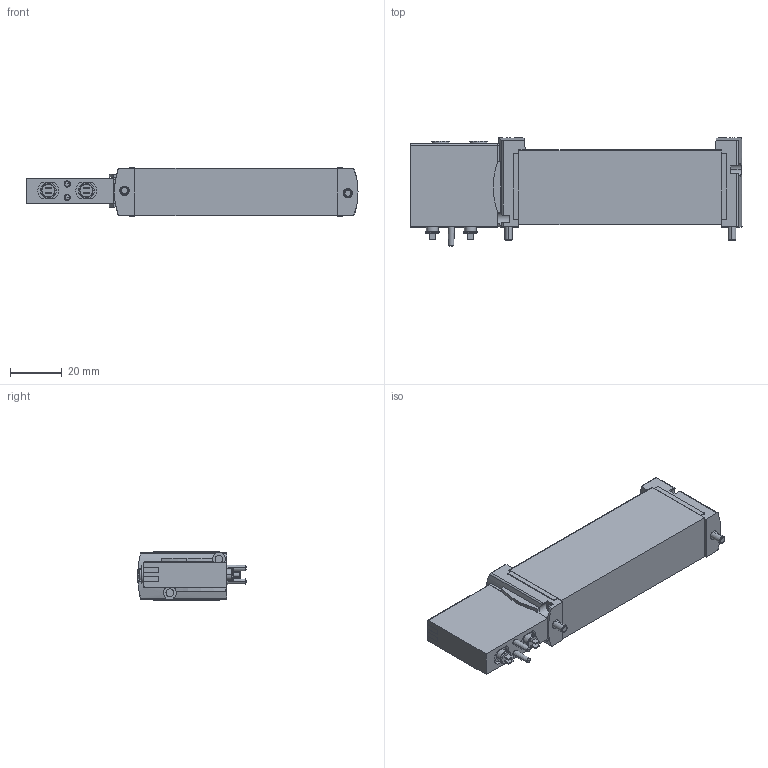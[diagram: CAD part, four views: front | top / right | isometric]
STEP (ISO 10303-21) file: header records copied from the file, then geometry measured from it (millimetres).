
FILE_DESCRIPTION (( 'STEP AP203' ), '1' );
FILE_NAME ('8180810140 FAS-B18-P53E-Z.STEP', '2024-09-09T02:24:07', ( 'L' ), ( '' ), 'SwSTEP 2.0', 'SolidWorks 2019', '' );
FILE_SCHEMA (( 'CONFIG_CONTROL_DESIGN' ));
Length unit declared in the file: millimetre
Products named in the file (1): 8180810140  FAS-B18-P53E-Z
Bounding box: 128.4 x 41.99 x 18.7 mm (x, y, z)
Volume: 61885.7 mm3; surface area: 15897.1 mm2
Topology: 3 solids, 7 shells, 395 faces, 998 edges, 645 vertices
Faces by surface type: plane 244, cylinder 111, cone 20, bspline 16, sphere 4
Entity records: 12623 total; most frequent: CARTESIAN_POINT 3025, ORIENTED_EDGE 1996, DIRECTION 1951, EDGE_CURVE 998, VECTOR 655, LINE 655, AXIS2_PLACEMENT_3D 648, VERTEX_POINT 645
